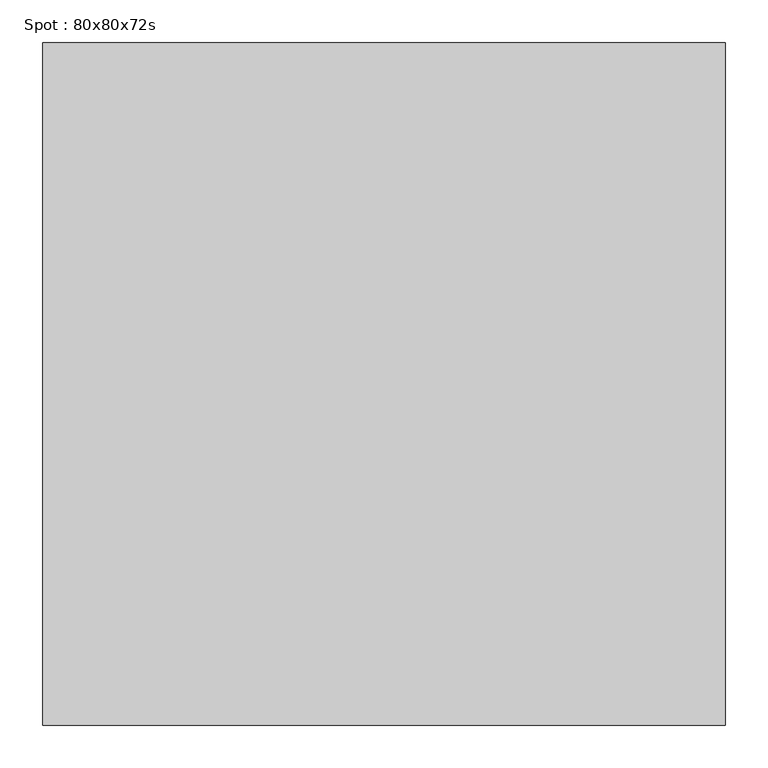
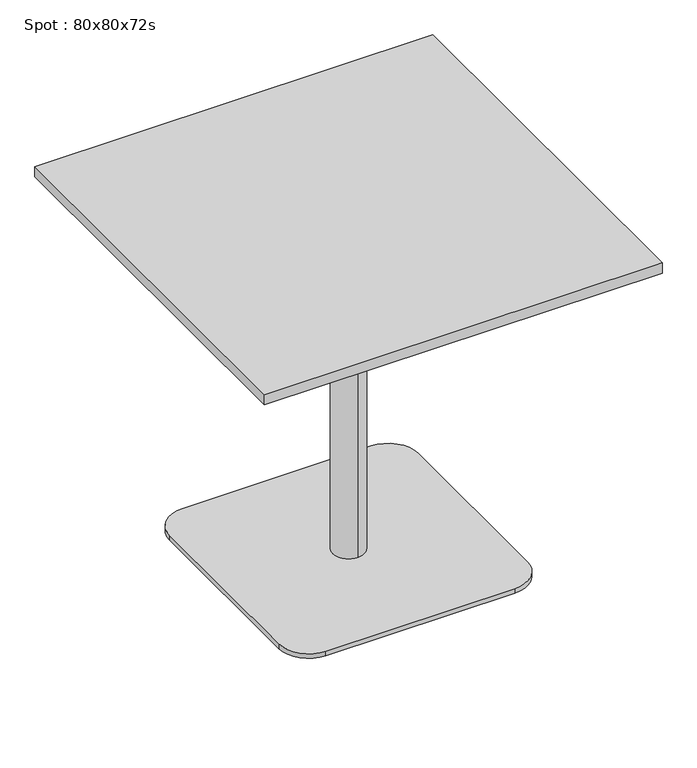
"""IFC4 building model written with IfcOpenShell, lengths in millimetres: furniture geometry, Spot : 80x80x72s."""

from ifc_helpers import new_model, si_unit, point, frame, frame_2d, origin, origin_with_axes, place, context, project, spatial, polyline, circle_curve, trimmed, segment, composite_curve, outline, extrude, source, transform, mapped, element, save
from ifc_brep_helpers import plane_surface, cylinder_surface, revolved_surface, advanced_brep


def spot_80x80x72s_e60da51a(model_context):
    return source(origin(), model_context, "Body", "SolidModel", [
        extrude(outline(polyline([(400.0, 400.0), (400.0, -400.0), (-400.0, -400.0), (-400.0, 400.0), (400.0, 400.0)])), frame((0.0, 0.0, 698.0), z_axis=(0.0, 0.0, 1.0), x_axis=(1.0, 0.0, 0.0)), (0.0, 0.0, 1.0), 22.0),
        extrude(outline(composite_curve([segment(trimmed(circle_curve(frame_2d((190.0, 190.0)), 60.0), [point((190.0, 250.0))], [point((250.0, 190.0))], False, "CARTESIAN"), True, "CONTINUOUS"), segment(polyline([(250.0, 190.0), (250.0, -190.0)]), True, "CONTINUOUS"), segment(trimmed(circle_curve(frame_2d((190.0, -190.0)), 60.0), [point((250.0, -190.0))], [point((190.0, -250.0))], False, "CARTESIAN"), True, "CONTINUOUS"), segment(polyline([(190.0, -250.0), (-190.0, -250.0)]), True, "CONTINUOUS"), segment(trimmed(circle_curve(frame_2d((-190.0, -190.0)), 60.0), [point((-190.0, -250.0))], [point((-250.0, -190.0))], False, "CARTESIAN"), True, "CONTINUOUS"), segment(polyline([(-250.0, -190.0), (-250.0, 190.0)]), True, "CONTINUOUS"), segment(trimmed(circle_curve(frame_2d((-190.0, 190.0)), 60.0), [point((-250.0, 190.0))], [point((-190.0, 250.0))], False, "CARTESIAN"), True, "CONTINUOUS"), segment(polyline([(-190.0, 250.0), (190.0, 250.0)]), True, "CONTINUOUS")], self_intersect=False)), origin_with_axes(), (0.0, 0.0, 1.0), 10.0),
        advanced_brep(
        [(0.0, 32.0, 10.0), (0.0, -32.0, 10.0), (0.0, -32.0, 667.406916), (0.0, 32.0, 667.406916), (0.0, 0.0, 10.0), (0.0, 150.0, 698.0), (0.0, -150.0, 698.0), (0.0, 0.0, 698.0), (0.0, 150.0, 686.7213673), (0.0, -150.0, 686.7213673)],
        [
            (0, 1, circle_curve(frame((0.0, 0.0, 10.0), z_axis=(0.0, 0.0, 1.0), x_axis=(0.0, -1.0, 0.0)), 32.0)),
            (1, 2),
            (2, 3, circle_curve(frame((0.0, 0.0, 667.406916), z_axis=(0.0, 0.0, -1.0), x_axis=(0.0, -1.0, 0.0)), 32.0)),
            (3, 0),
            (1, 0, circle_curve(frame((0.0, 0.0, 10.0), z_axis=(0.0, 0.0, 1.0), x_axis=(0.0, -1.0, 0.0)), 32.0)),
            (3, 2, circle_curve(frame((0.0, 0.0, 667.406916), z_axis=(0.0, 0.0, -1.0), x_axis=(0.0, -1.0, 0.0)), 32.0)),
            (4, 1),
            (0, 4),
            (5, 6, circle_curve(frame((0.0, 0.0, 698.0), z_axis=(0.0, 0.0, 1.0), x_axis=(0.0, -1.0, 0.0)), 150.0)),
            (6, 7),
            (7, 5),
            (6, 5, circle_curve(frame((0.0, 0.0, 698.0), z_axis=(0.0, 0.0, 1.0), x_axis=(0.0, -1.0, 0.0)), 150.0)),
            (8, 9, circle_curve(frame((0.0, 0.0, 686.7213673), z_axis=(0.0, 0.0, 1.0), x_axis=(0.0, -1.0, 0.0)), 150.0)),
            (9, 6),
            (5, 8),
            (9, 8, circle_curve(frame((0.0, 0.0, 686.7213673), z_axis=(0.0, 0.0, 1.0), x_axis=(0.0, -1.0, 0.0)), 150.0)),
            (2, 9),
            (8, 3),
        ],
        [
            cylinder_surface(frame((0.0, 0.0, 1060.0), z_axis=(0.0, 0.0, -1.0), x_axis=(0.0, -1.0, 0.0)), 32.0),
            plane_surface(frame((0.0, 0.0, 10.0), z_axis=(0.0, 0.0, -1.0), x_axis=(0.0, -1.0, 0.0))),
            plane_surface(frame((0.0, 0.0, 698.0), z_axis=(0.0, 0.0, 1.0), x_axis=(0.0, -1.0, 0.0))),
            cylinder_surface(frame((0.0, 0.0, 1060.0), z_axis=(0.0, 0.0, -1.0), x_axis=(0.0, -1.0, 0.0)), 150.0),
            revolved_surface(polyline([(0.0, -150.0, 686.7213673), (0.0, -32.0, 667.406916)]), (0.0, 0.0, 1060.0), (0.0, 0.0, -1.0)),
        ],
        [
            (0, [[1, 2, 3, 4]]),
            (0, [[5, -4, 6, -2]]),
            (1, [[7, -1, 8]]),
            (1, [[-8, -5, -7]]),
            (2, [[9, 10, 11]]),
            (2, [[12, -11, -10]]),
            (3, [[13, 14, -9, 15]]),
            (3, [[16, -15, -12, -14]]),
            (4, [[-3, 17, -13, 18]]),
            (4, [[-6, -18, -16, -17]]),
        ],
    ),
        extrude(outline(polyline([(0.0, 0.0), (-20.0, 0.0), (-20.0, 20.0), (0.0, 20.0), (0.0, 0.0)])), origin_with_axes(), (0.0, 0.0, 1.0), 10.0),
    ])


if __name__ == "__main__":
    model = new_model("IFC4")
    model_context = context("Model", 3, world=origin())
    ifc_project = project(units=[si_unit("LENGTHUNIT", "METRE", prefix="MILLI")], contexts=[model_context])
    site = spatial("IfcSite", under=ifc_project)
    building = spatial("IfcBuilding", under=site)
    placement = place(None, origin())
    spot_80x80x72s_shape = spot_80x80x72s_e60da51a(model_context)
    element("IfcFurniture", 1, ObjectType="Spot : 80x80x72s", at=placement, inside=building, context=model_context, shape_type="MappedRepresentation", body=[
        mapped(spot_80x80x72s_shape, transform((0.0, 0.0, 0.0), x_axis=(1.0, 0.0, 0.0), y_axis=(0.0, 1.0, 0.0), z_axis=(0.0, 0.0, 1.0))),
    ])
    save(model, "model.ifc")
